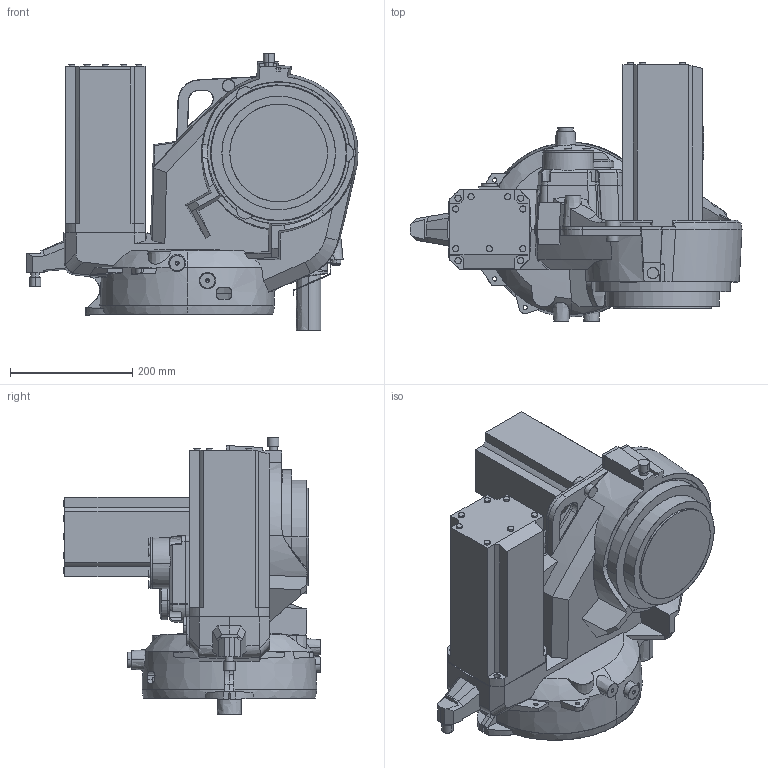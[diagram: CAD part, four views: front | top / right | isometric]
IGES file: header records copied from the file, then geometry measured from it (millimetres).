
Start section: SolidWorks IGES file using analytic representation for surfaces
Global section: file name: C:\Users\CNVIWU6\Desktop\Customer CAD\New model\Base\IRB2600_TYPEC_12kg-165_IRC5_rev00_PARASOLID_j\IRB2600-TYPEC_12kg-165_LINK1_CAD_rev01.IGS; native system: SolidWorks 2016; preprocessor: SolidWorks 2016; author: CNVIWU6; date: 180626.090123; units: millimetre
Bounding box: 544 x 422.5 x 454 mm (x, y, z)
Surface area: 1078784.7 mm2 (no closed solid volume)
Topology: 0 solids, 0 shells, 1129 faces, 14690 edges, 14658 vertices
Faces by surface type: bspline 709, revolution 420
